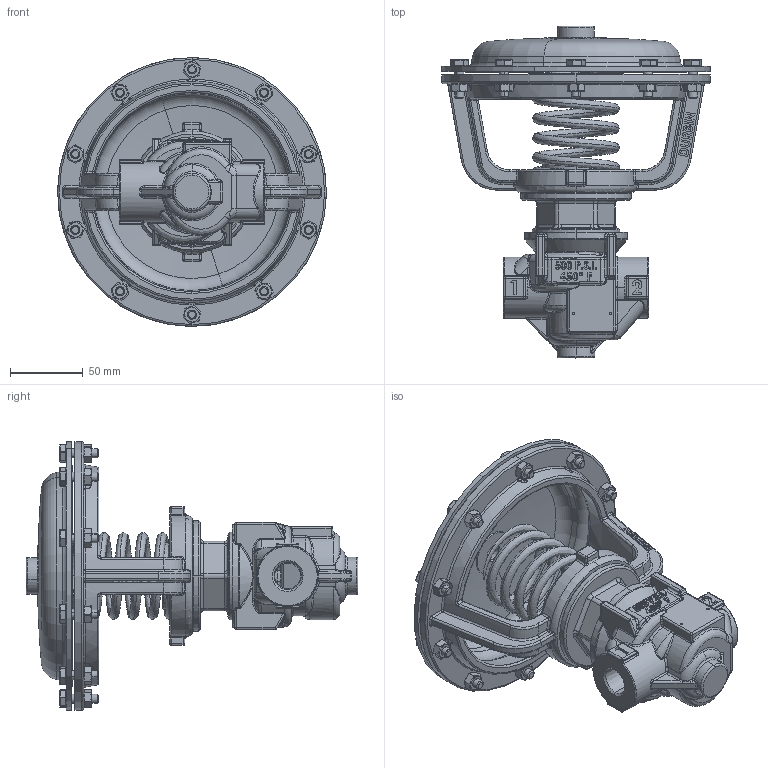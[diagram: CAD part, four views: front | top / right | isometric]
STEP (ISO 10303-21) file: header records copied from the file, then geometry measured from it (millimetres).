
FILE_DESCRIPTION (( 'STEP AP203' ), '1' );
FILE_NAME ('.50-.75 2W LG NPT SC500-STEP.STEP', '2018-11-07T14:49:23', ( '' ), ( '' ), 'SwSTEP 2.0', 'SolidWorks 2012', '' );
FILE_SCHEMA (( 'CONFIG_CONTROL_DESIGN' ));
Length unit declared in the file: inch
Products named in the file (10): .50-.75 2W LG NPT SC500-STEP; H060-03; H096-10; D293-160DR; C293-023DR; D771; C293-023DM; D283-140D-SS; C013-006D-SS; C093-136D-SS
Assembly tree (27 placements, depth 3):
  .50-.75 2W LG NPT SC500-STEP
    C093-136D-SS
    C013-006D-SS
    D283-140D-SS
    C293-023DR
      C293-023DM
      D771
    D293-160DR
    H096-10  x10
    H060-03  x10
Bounding box: 184.4 x 227.67 x 184.4 mm (x, y, z)
Volume: 621116.3 mm3; surface area: 246694.9 mm2
Topology: 26 solids, 26 shells, 3409 faces, 8061 edges, 4636 vertices
Faces by surface type: plane 896, bspline 862, cylinder 717, sphere 331, cone 304, torus 299
Entity records: 115427 total; most frequent: CARTESIAN_POINT 61359, ORIENTED_EDGE 11992, DIRECTION 9421, EDGE_CURVE 5996, VERTEX_POINT 3664, AXIS2_PLACEMENT_3D 3620, EDGE_LOOP 2632, FACE_OUTER_BOUND 2455
